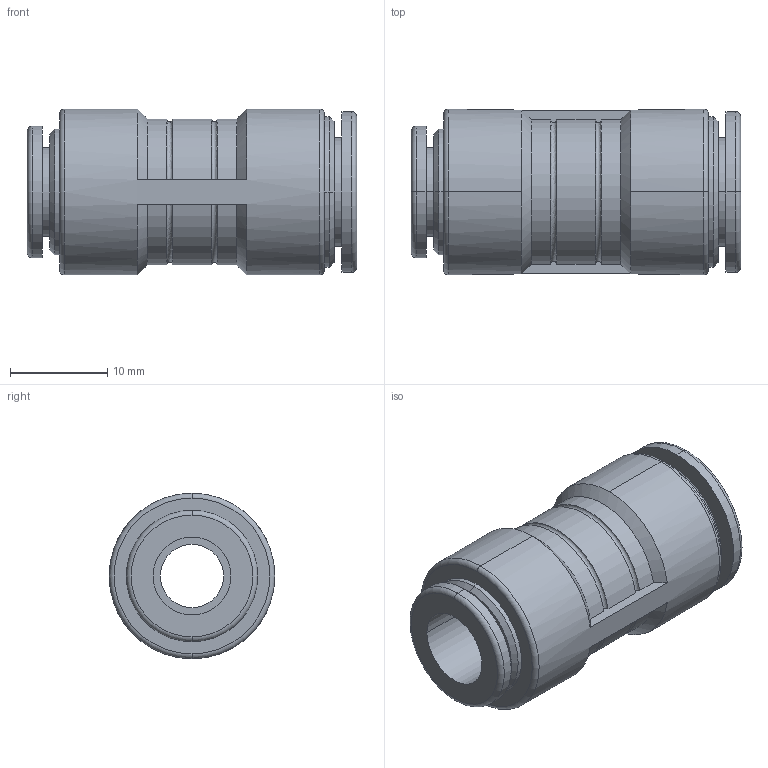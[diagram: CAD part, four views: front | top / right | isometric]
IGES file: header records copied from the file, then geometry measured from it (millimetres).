
Global section: file name: No Iges File Name specified; native system: AutoDesk Inventor R11.0; preprocessor: AutoDesk Inventor Iges Exporter R11.0; author: No Author specified; organization: No Organization specified; date: 20120321.161624; units: millimetre
Bounding box: 33.8 x 17 x 17 mm (x, y, z)
Volume: 4591.5 mm3; surface area: 3410.9 mm2
Topology: 1 solids, 1 shells, 63 faces, 144 edges, 92 vertices
Faces by surface type: cylinder 20, bspline 14, plane 11, torus 8, cone 8, revolution 2
